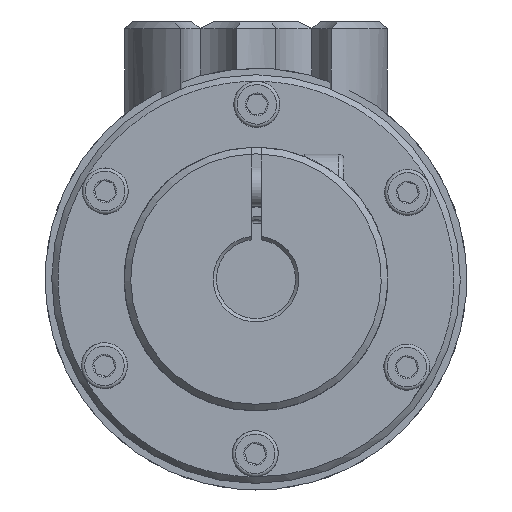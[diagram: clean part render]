
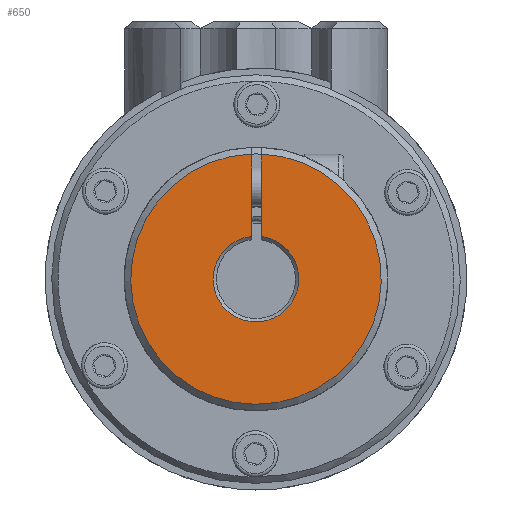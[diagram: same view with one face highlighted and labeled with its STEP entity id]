
A CAD part, left-side view. The second image highlights one B-rep face of the part: STEP entity #650.
In plain terms, the highlighted planar face has unit normal (-1, 0, 0) as drawn and (0, 0, -1) by its records, which use the part's own axes.
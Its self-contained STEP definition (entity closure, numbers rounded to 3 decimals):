
#650 = ADVANCED_FACE( '', ( #1379 ), #1380, .T. );
#1379 = FACE_OUTER_BOUND( '', #2233, .T. );
#1380 = PLANE( '', #2234 );
#2233 = EDGE_LOOP( '', ( #4176, #4177, #4178, #4179 ) );
#2234 = AXIS2_PLACEMENT_3D( '', #4180, #4181, #4182 );
#4176 = ORIENTED_EDGE( '', *, *, #5216, .T. );
#4177 = ORIENTED_EDGE( '', *, *, #5258, .T. );
#4178 = ORIENTED_EDGE( '', *, *, #5243, .F. );
#4179 = ORIENTED_EDGE( '', *, *, #5212, .T. );
#4180 = CARTESIAN_POINT( '', ( 0., 0., 0. ) );
#4181 = DIRECTION( '', ( 0., 0., -1. ) );
#4182 = DIRECTION( '', ( 0., -1., 0. ) );
#5212 = EDGE_CURVE( '', #6195, #6193, #6196, .T. );
#5216 = EDGE_CURVE( '', #6193, #6201, #6203, .T. );
#5243 = EDGE_CURVE( '', #6195, #6250, #6251, .F. );
#5258 = EDGE_CURVE( '', #6201, #6250, #6272, .F. );
#6193 = VERTEX_POINT( '', #8117 );
#6195 = VERTEX_POINT( '', #8122 );
#6196 = CIRCLE( '', #8123, 19. );
#6201 = VERTEX_POINT( '', #8132 );
#6203 = LINE( '', #8137, #8138 );
#6250 = VERTEX_POINT( '', #8220 );
#6251 = LINE( '', #8221, #8222 );
#6272 = CIRCLE( '', #8258, 6.5 );
#8117 = CARTESIAN_POINT( '', ( -18.985, -0.75, 0. ) );
#8122 = CARTESIAN_POINT( '', ( -18.985, 0.75, 0. ) );
#8123 = AXIS2_PLACEMENT_3D( '', #9718, #9719, #9720 );
#8132 = CARTESIAN_POINT( '', ( -6.457, -0.75, 0. ) );
#8137 = CARTESIAN_POINT( '', ( 0., -0.75, 0. ) );
#8138 = VECTOR( '', #9722, 1000. );
#8220 = CARTESIAN_POINT( '', ( -6.457, 0.75, 0. ) );
#8221 = CARTESIAN_POINT( '', ( -20., 0.75, 0. ) );
#8222 = VECTOR( '', #9766, 1000. );
#8258 = AXIS2_PLACEMENT_3D( '', #9791, #9792, #9793 );
#9718 = CARTESIAN_POINT( '', ( 0., 0., 0. ) );
#9719 = DIRECTION( '', ( 0., 0., -1. ) );
#9720 = DIRECTION( '', ( -1., 0., 0. ) );
#9722 = DIRECTION( '', ( 1., 0., 0. ) );
#9766 = DIRECTION( '', ( -1., 0., 0. ) );
#9791 = CARTESIAN_POINT( '', ( 0., 0., 0. ) );
#9792 = DIRECTION( '', ( 0., 0., -1. ) );
#9793 = DIRECTION( '', ( -1., 0., 0. ) );
